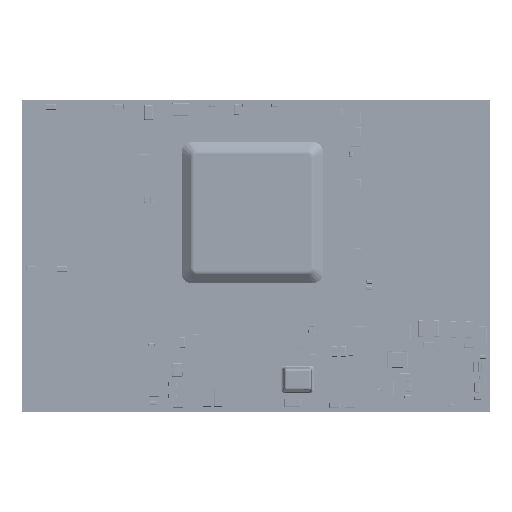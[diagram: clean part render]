
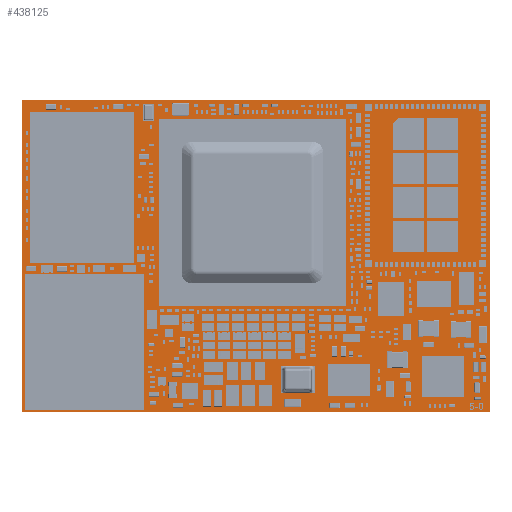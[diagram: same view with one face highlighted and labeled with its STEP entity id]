
A CAD part, top view. The second image highlights one B-rep face of the part: STEP entity #438125.
In plain terms, the highlighted planar face has unit normal (0, 0, 1).
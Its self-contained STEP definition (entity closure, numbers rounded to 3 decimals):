
#51356 = PLANE ( 'NONE',  #519997 ) ;
#54397 = CARTESIAN_POINT ( 'NONE',  ( 0., 0., 0. ) ) ;
#77107 = CARTESIAN_POINT ( 'NONE',  ( 0., 30., 0. ) ) ;
#86060 = DIRECTION ( 'NONE',  ( 0., 0., 1. ) ) ;
#106547 = VECTOR ( 'NONE', #750359, 1000. ) ;
#117058 = CARTESIAN_POINT ( 'NONE',  ( 45., 30., 0. ) ) ;
#130756 = EDGE_CURVE ( 'NONE', #592606, #534400, #740600, .T. ) ;
#160028 = VERTEX_POINT ( 'NONE', #54397 ) ;
#178038 = VECTOR ( 'NONE', #1147110, 1000. ) ;
#202938 = LINE ( 'NONE', #302962, #815234 ) ;
#205259 = DIRECTION ( 'NONE',  ( -1., 0., 0. ) ) ;
#302962 = CARTESIAN_POINT ( 'NONE',  ( 0., 0., 0. ) ) ;
#305339 = ORIENTED_EDGE ( 'NONE', *, *, #130756, .T. ) ;
#356770 = DIRECTION ( 'NONE',  ( 1., 0., 0. ) ) ;
#391603 = LINE ( 'NONE', #1096943, #106547 ) ;
#410741 = EDGE_CURVE ( 'NONE', #534400, #160028, #1152863, .T. ) ;
#420362 = ORIENTED_EDGE ( 'NONE', *, *, #1011785, .T. ) ;
#438125 = ADVANCED_FACE ( 'NONE', ( #856970 ), #51356, .T. ) ;
#495200 = EDGE_CURVE ( 'NONE', #643578, #592606, #391603, .T. ) ;
#519997 = AXIS2_PLACEMENT_3D ( 'NONE', #1062223, #86060, #356770 ) ;
#534400 = VERTEX_POINT ( 'NONE', #947848 ) ;
#592606 = VERTEX_POINT ( 'NONE', #1020434 ) ;
#600075 = ORIENTED_EDGE ( 'NONE', *, *, #410741, .T. ) ;
#601296 = ORIENTED_EDGE ( 'NONE', *, *, #495200, .T. ) ;
#643578 = VERTEX_POINT ( 'NONE', #911555 ) ;
#740600 = LINE ( 'NONE', #117058, #1143140 ) ;
#750359 = DIRECTION ( 'NONE',  ( 0., 1., 0. ) ) ;
#815234 = VECTOR ( 'NONE', #991023, 1000. ) ;
#856970 = FACE_OUTER_BOUND ( 'NONE', #971152, .T. ) ;
#911555 = CARTESIAN_POINT ( 'NONE',  ( 45., 0., 0. ) ) ;
#947848 = CARTESIAN_POINT ( 'NONE',  ( 0., 30., 0. ) ) ;
#971152 = EDGE_LOOP ( 'NONE', ( #420362, #601296, #305339, #600075 ) ) ;
#991023 = DIRECTION ( 'NONE',  ( 1., 0., 0. ) ) ;
#1011785 = EDGE_CURVE ( 'NONE', #160028, #643578, #202938, .T. ) ;
#1020434 = CARTESIAN_POINT ( 'NONE',  ( 45., 30., 0. ) ) ;
#1062223 = CARTESIAN_POINT ( 'NONE',  ( 22.5, 15., 0. ) ) ;
#1096943 = CARTESIAN_POINT ( 'NONE',  ( 45., 0., 0. ) ) ;
#1143140 = VECTOR ( 'NONE', #205259, 1000. ) ;
#1147110 = DIRECTION ( 'NONE',  ( 0., -1., 0. ) ) ;
#1152863 = LINE ( 'NONE', #77107, #178038 ) ;
